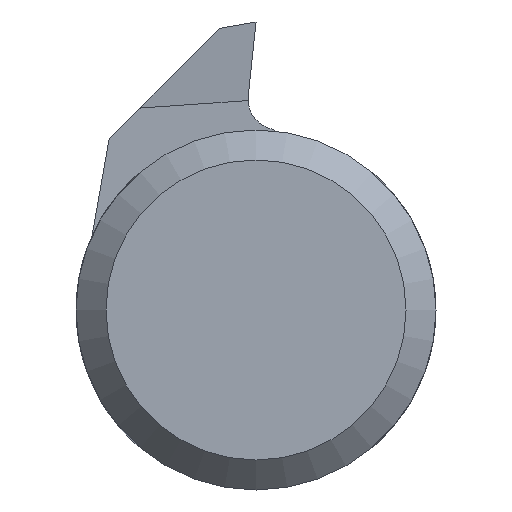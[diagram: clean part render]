
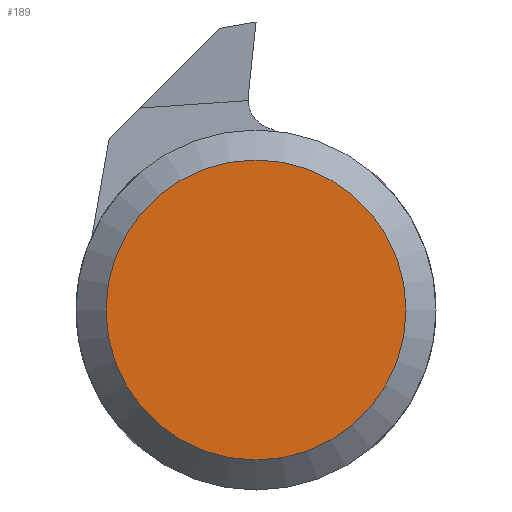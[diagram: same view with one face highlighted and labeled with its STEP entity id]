
A CAD part, front view. The second image highlights one B-rep face of the part: STEP entity #189.
In plain terms, the highlighted planar face has unit normal (0, -1, 0).
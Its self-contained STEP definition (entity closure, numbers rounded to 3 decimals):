
#109=PLANE('',#1030);
#146=FACE_OUTER_BOUND('',#465,.T.);
#189=ADVANCED_FACE('',(#146),#109,.F.);
#465=EDGE_LOOP('',(#549));
#549=ORIENTED_EDGE('',*,*,#875,.T.);
#789=VERTEX_POINT('',#1428);
#875=EDGE_CURVE('',#789,#789,#987,.T.);
#987=CIRCLE('',#1029,2.5);
#1029=AXIS2_PLACEMENT_3D('',#1427,#1143,#1144);
#1030=AXIS2_PLACEMENT_3D('',#1429,#1145,#1146);
#1143=DIRECTION('',(0.,-1.,0.));
#1144=DIRECTION('',(0.,0.,1.));
#1145=DIRECTION('',(0.,1.,0.));
#1146=DIRECTION('',(0.,0.,1.));
#1427=CARTESIAN_POINT('',(0.,-66.35,0.));
#1428=CARTESIAN_POINT('',(0.,-66.35,2.5));
#1429=CARTESIAN_POINT('',(3.,-66.35,0.));
